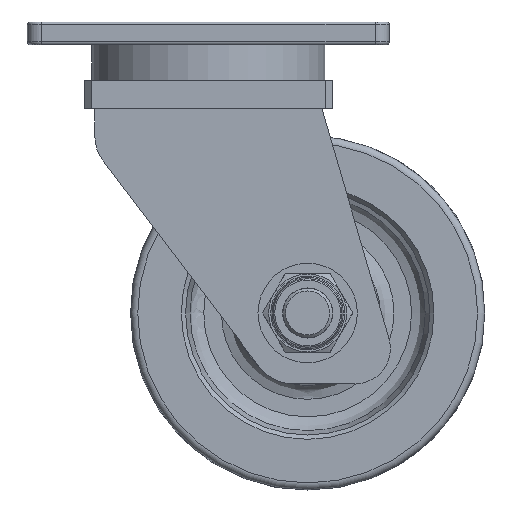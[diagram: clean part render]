
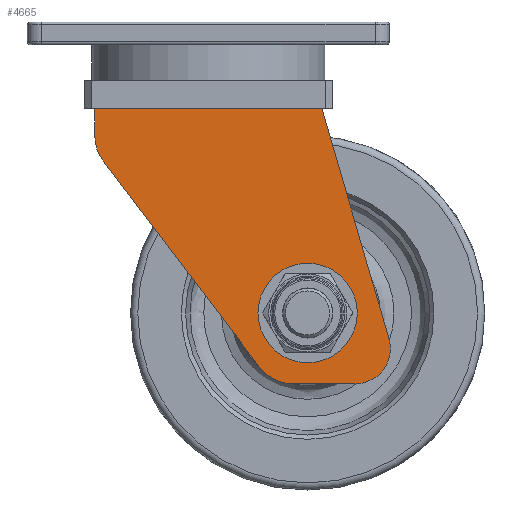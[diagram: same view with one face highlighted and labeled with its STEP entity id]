
A CAD part, front view. The second image highlights one B-rep face of the part: STEP entity #4665.
In plain terms, the highlighted planar face has unit normal (0, -1, 0).
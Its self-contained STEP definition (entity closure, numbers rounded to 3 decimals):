
#706=CARTESIAN_POINT('',(-121.317,-112.089,-182.456));
#707=VERTEX_POINT('',#706);
#708=CARTESIAN_POINT('',(-145.315,-112.089,-214.461));
#709=VERTEX_POINT('',#708);
#710=CARTESIAN_POINT('',(-145.315,-112.089,-189.461));
#711=DIRECTION('',(0.0,1.0,0.0));
#712=DIRECTION('',(1.0,0.0,0.0));
#713=AXIS2_PLACEMENT_3D('',#710,#711,#712);
#714=CIRCLE('',#713,25.0);
#715=EDGE_CURVE('',#707,#709,#714,.T.);
#738=CARTESIAN_POINT('',(-188.529,-112.089,-214.461));
#739=VERTEX_POINT('',#738);
#740=CARTESIAN_POINT('',(-145.315,-112.089,-214.461));
#741=DIRECTION('',(-1.0,0.0,0.0));
#742=VECTOR('',#741,43.214);
#743=LINE('',#740,#742);
#744=EDGE_CURVE('',#709,#739,#743,.T.);
#762=CARTESIAN_POINT('',(-212.43,-112.089,-202.592));
#763=VERTEX_POINT('',#762);
#764=CARTESIAN_POINT('',(-188.529,-112.089,-184.461));
#765=DIRECTION('',(0.0,1.0,0.0));
#766=DIRECTION('',(1.0,0.0,0.0));
#767=AXIS2_PLACEMENT_3D('',#764,#765,#766);
#768=CIRCLE('',#767,30.0);
#769=EDGE_CURVE('',#739,#763,#768,.T.);
#787=CARTESIAN_POINT('',(-322.499,-112.089,-57.5));
#788=VERTEX_POINT('',#787);
#789=CARTESIAN_POINT('',(-212.43,-112.089,-202.592));
#790=DIRECTION('',(-0.604,0.,0.797));
#791=VECTOR('',#790,182.117);
#792=LINE('',#789,#791);
#793=EDGE_CURVE('',#763,#788,#792,.T.);
#811=CARTESIAN_POINT('',(-328.598,-112.089,-39.369));
#812=VERTEX_POINT('',#811);
#813=CARTESIAN_POINT('',(-298.598,-112.089,-39.369));
#814=DIRECTION('',(0.0,1.0,0.0));
#815=DIRECTION('',(1.0,0.0,0.0));
#816=AXIS2_PLACEMENT_3D('',#813,#814,#815);
#817=CIRCLE('',#816,30.0);
#818=EDGE_CURVE('',#788,#812,#817,.T.);
#836=CARTESIAN_POINT('',(-328.598,-112.089,-20.461));
#837=VERTEX_POINT('',#836);
#838=CARTESIAN_POINT('',(-328.598,-112.089,-39.369));
#839=DIRECTION('',(0.0,0.0,1.0));
#840=VECTOR('',#839,18.908);
#841=LINE('',#838,#840);
#842=EDGE_CURVE('',#812,#837,#841,.T.);
#860=CARTESIAN_POINT('',(-168.598,-112.089,-20.461));
#861=VERTEX_POINT('',#860);
#862=CARTESIAN_POINT('',(-168.598,-112.089,-20.461));
#863=DIRECTION('',(0.28,0.,-0.96));
#864=VECTOR('',#863,168.754);
#865=LINE('',#862,#864);
#866=EDGE_CURVE('',#861,#707,#865,.T.);
#3970=CARTESIAN_POINT('',(-328.598,-112.089,-20.461));
#3971=DIRECTION('',(1.0,0.0,0.0));
#3972=VECTOR('',#3971,160.);
#3973=LINE('',#3970,#3972);
#3974=EDGE_CURVE('',#837,#861,#3973,.T.);
#4639=CARTESIAN_POINT('',(-216.447,-112.089,-105.09));
#4640=DIRECTION('',(0.0,-1.0,0.0));
#4641=DIRECTION('',(0.0,0.0,-1.0));
#4642=AXIS2_PLACEMENT_3D('',#4639,#4640,#4641);
#4643=PLANE('',#4642);
#4644=ORIENTED_EDGE('',*,*,#715,.F.);
#4645=ORIENTED_EDGE('',*,*,#866,.F.);
#4646=ORIENTED_EDGE('',*,*,#3974,.F.);
#4647=ORIENTED_EDGE('',*,*,#842,.F.);
#4648=ORIENTED_EDGE('',*,*,#818,.F.);
#4649=ORIENTED_EDGE('',*,*,#793,.F.);
#4650=ORIENTED_EDGE('',*,*,#769,.F.);
#4651=ORIENTED_EDGE('',*,*,#744,.F.);
#4652=EDGE_LOOP('',(#4644,#4645,#4646,#4647,#4648,#4649,#4650,#4651));
#4653=FACE_OUTER_BOUND('',#4652,.T.);
#4654=CARTESIAN_POINT('',(-213.598,-112.089,-164.461));
#4655=VERTEX_POINT('',#4654);
#4656=CARTESIAN_POINT('',(-178.598,-112.089,-164.461));
#4657=DIRECTION('',(0.0,1.0,0.0));
#4658=DIRECTION('',(1.0,0.0,0.0));
#4659=AXIS2_PLACEMENT_3D('',#4656,#4657,#4658);
#4660=CIRCLE('',#4659,35.0);
#4661=EDGE_CURVE('',#4655,#4655,#4660,.T.);
#4662=ORIENTED_EDGE('',*,*,#4661,.T.);
#4663=EDGE_LOOP('',(#4662));
#4664=FACE_BOUND('',#4663,.T.);
#4665=ADVANCED_FACE('',(#4653,#4664),#4643,.T.);
